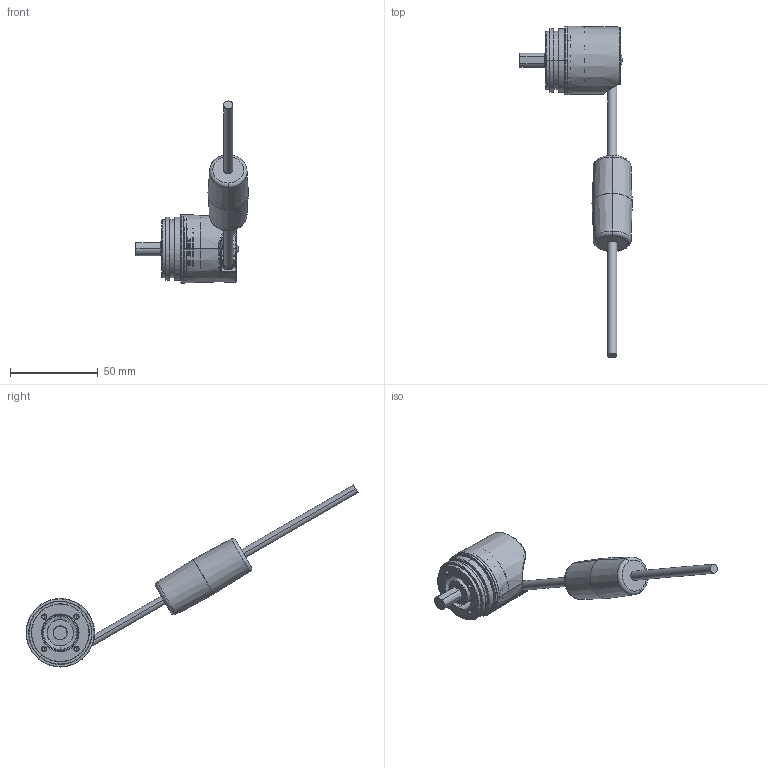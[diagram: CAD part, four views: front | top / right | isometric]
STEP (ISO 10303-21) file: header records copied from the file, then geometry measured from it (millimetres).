
FILE_DESCRIPTION (( 'STEP AP214' ), '1' );
FILE_NAME ('F3668.4323.XXXX.STEP', '2010-03-16T08:34:40', ( 'admin' ), ( 'Fritz Kübler GmbH' ), 'SwSTEP 2.0', 'SolidWorks 2009', '' );
FILE_SCHEMA (( 'AUTOMOTIVE_DESIGN' ));
Length unit declared in the file: millimetre
Products named in the file (1): F3668.4323.XXXX
Bounding box: 64.2 x 188.89 x 103.61 mm (x, y, z)
Volume: 30802.6 mm3; surface area: 31856.2 mm2
Topology: 7 solids, 8 shells, 1016 faces, 2487 edges, 1529 vertices
Faces by surface type: plane 283, bspline 267, cylinder 216, cone 141, torus 99, sphere 10
Entity records: 54277 total; most frequent: CARTESIAN_POINT 20717, ORIENTED_EDGE 4942, DIRECTION 4169, EDGE_CURVE 2471, AXIS2_PLACEMENT_3D 1603, VERTEX_POINT 1529, EDGE_LOOP 1088, UNCERTAINTY_MEASURE_WITH_UNIT 1025
